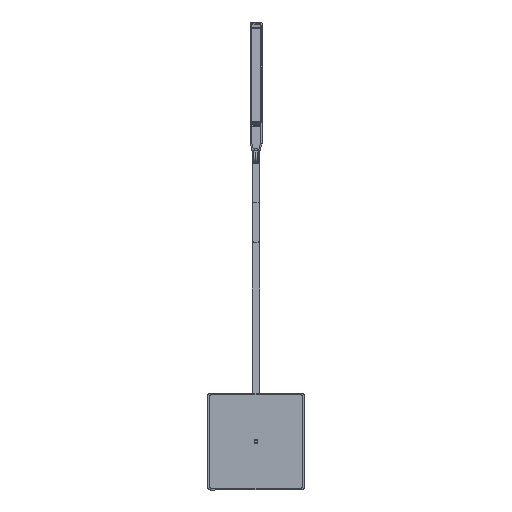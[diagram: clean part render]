
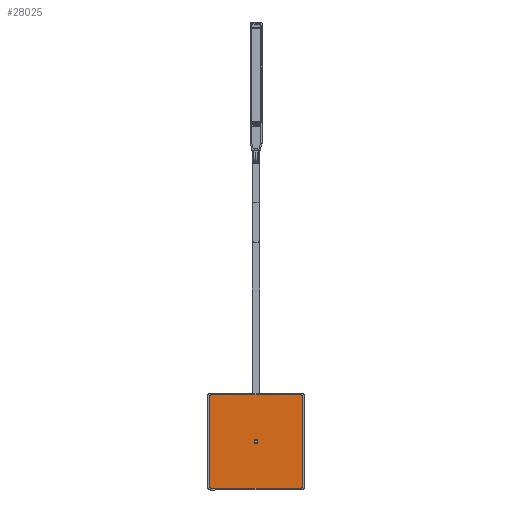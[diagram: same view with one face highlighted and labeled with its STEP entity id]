
A CAD part, front view. The second image highlights one B-rep face of the part: STEP entity #28025.
In plain terms, the highlighted planar face has unit normal (0, -1, 0).
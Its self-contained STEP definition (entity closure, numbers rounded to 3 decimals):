
#607 = DIRECTION ( 'NONE',  ( 0., 0., 1. ) ) ;
#1373 = CARTESIAN_POINT ( 'NONE',  ( 0., 0., 0. ) ) ;
#2465 = CARTESIAN_POINT ( 'NONE',  ( 0., 0., -2.5 ) ) ;
#4659 = EDGE_CURVE ( 'NONE', #7457, #37691, #80485, .T. ) ;
#7457 = VERTEX_POINT ( 'NONE', #24478 ) ;
#8088 = AXIS2_PLACEMENT_3D ( 'NONE', #27718, #56889, #56581 ) ;
#8959 = AXIS2_PLACEMENT_3D ( 'NONE', #73977, #54387, #84434 ) ;
#13626 = DIRECTION ( 'NONE',  ( 0., 0., -1. ) ) ;
#14176 = CARTESIAN_POINT ( 'NONE',  ( 72.5, 0., -68.5 ) ) ;
#16107 = EDGE_CURVE ( 'NONE', #22834, #42604, #86842, .T. ) ;
#16172 = CARTESIAN_POINT ( 'NONE',  ( 68.5, 0., 68.5 ) ) ;
#16890 = LINE ( 'NONE', #17918, #92443 ) ;
#17918 = CARTESIAN_POINT ( 'NONE',  ( 0., 0., -72.5 ) ) ;
#18992 = EDGE_CURVE ( 'NONE', #37691, #75326, #16890, .T. ) ;
#22537 = DIRECTION ( 'NONE',  ( 0., 0., -1. ) ) ;
#22834 = VERTEX_POINT ( 'NONE', #46026 ) ;
#23716 = CIRCLE ( 'NONE', #82555, 4. ) ;
#23804 = DIRECTION ( 'NONE',  ( 0., -1., 0. ) ) ;
#24427 = DIRECTION ( 'NONE',  ( 0., 1., 0. ) ) ;
#24478 = CARTESIAN_POINT ( 'NONE',  ( -72.5, 0., -68.5 ) ) ;
#25236 = DIRECTION ( 'NONE',  ( 1., 0., 0. ) ) ;
#27282 = LINE ( 'NONE', #69243, #44486 ) ;
#27718 = CARTESIAN_POINT ( 'NONE',  ( 68.5, 0., -68.5 ) ) ;
#28025 = ADVANCED_FACE ( 'NONE', ( #35381, #37688 ), #49118, .T. ) ;
#28269 = ORIENTED_EDGE ( 'NONE', *, *, #94301, .T. ) ;
#29794 = CIRCLE ( 'NONE', #8088, 4. ) ;
#29823 = VERTEX_POINT ( 'NONE', #2465 ) ;
#30739 = ORIENTED_EDGE ( 'NONE', *, *, #80542, .T. ) ;
#33884 = EDGE_LOOP ( 'NONE', ( #83653, #65877, #81834, #48893, #28269, #61998, #30739, #86747 ) ) ;
#33890 = VERTEX_POINT ( 'NONE', #71691 ) ;
#33989 = DIRECTION ( 'NONE',  ( -1., 0., 0. ) ) ;
#34443 = CARTESIAN_POINT ( 'NONE',  ( -68.5, 0., 72.5 ) ) ;
#35381 = FACE_OUTER_BOUND ( 'NONE', #33884, .T. ) ;
#37688 = FACE_BOUND ( 'NONE', #84948, .T. ) ;
#37691 = VERTEX_POINT ( 'NONE', #90854 ) ;
#41286 = CARTESIAN_POINT ( 'NONE',  ( 68.5, 0., -72.5 ) ) ;
#42604 = VERTEX_POINT ( 'NONE', #70523 ) ;
#43557 = CARTESIAN_POINT ( 'NONE',  ( -72.5, 0., 68.5 ) ) ;
#44486 = VECTOR ( 'NONE', #33989, 1000. ) ;
#46026 = CARTESIAN_POINT ( 'NONE',  ( 72.5, 0., 68.5 ) ) ;
#46407 = ORIENTED_EDGE ( 'NONE', *, *, #89472, .T. ) ;
#46625 = LINE ( 'NONE', #69318, #90146 ) ;
#48893 = ORIENTED_EDGE ( 'NONE', *, *, #60874, .T. ) ;
#49118 = PLANE ( 'NONE',  #73776 ) ;
#51200 = DIRECTION ( 'NONE',  ( 0., 1., 0. ) ) ;
#54387 = DIRECTION ( 'NONE',  ( 0., -1., 0. ) ) ;
#55667 = ORIENTED_EDGE ( 'NONE', *, *, #76213, .T. ) ;
#56581 = DIRECTION ( 'NONE',  ( 0., 0., -1. ) ) ;
#56889 = DIRECTION ( 'NONE',  ( 0., -1., 0. ) ) ;
#57686 = CARTESIAN_POINT ( 'NONE',  ( -68.5, 0., 68.5 ) ) ;
#57726 = DIRECTION ( 'NONE',  ( 0., -1., 0. ) ) ;
#60326 = DIRECTION ( 'NONE',  ( 0., 0., 1. ) ) ;
#60874 = EDGE_CURVE ( 'NONE', #75326, #77528, #29794, .T. ) ;
#61998 = ORIENTED_EDGE ( 'NONE', *, *, #16107, .T. ) ;
#63774 = AXIS2_PLACEMENT_3D ( 'NONE', #1373, #24427, #60326 ) ;
#64217 = AXIS2_PLACEMENT_3D ( 'NONE', #87365, #51200, #72405 ) ;
#65095 = DIRECTION ( 'NONE',  ( 0., 0., -1. ) ) ;
#65877 = ORIENTED_EDGE ( 'NONE', *, *, #4659, .T. ) ;
#67254 = VERTEX_POINT ( 'NONE', #34443 ) ;
#68213 = VECTOR ( 'NONE', #607, 1000. ) ;
#68366 = DIRECTION ( 'NONE',  ( 0., 0., -1. ) ) ;
#69243 = CARTESIAN_POINT ( 'NONE',  ( 0., 0., 72.5 ) ) ;
#69318 = CARTESIAN_POINT ( 'NONE',  ( -72.5, 0., 0. ) ) ;
#70523 = CARTESIAN_POINT ( 'NONE',  ( 68.5, 0., 72.5 ) ) ;
#71691 = CARTESIAN_POINT ( 'NONE',  ( 0., 0., 2.5 ) ) ;
#72405 = DIRECTION ( 'NONE',  ( 0., 0., 1. ) ) ;
#72823 = CARTESIAN_POINT ( 'NONE',  ( 0., 0., 0. ) ) ;
#73776 = AXIS2_PLACEMENT_3D ( 'NONE', #72823, #57726, #13626 ) ;
#73977 = CARTESIAN_POINT ( 'NONE',  ( -68.5, 0., -68.5 ) ) ;
#75326 = VERTEX_POINT ( 'NONE', #41286 ) ;
#76213 = EDGE_CURVE ( 'NONE', #33890, #29823, #93968, .T. ) ;
#77528 = VERTEX_POINT ( 'NONE', #14176 ) ;
#80485 = CIRCLE ( 'NONE', #8959, 4. ) ;
#80542 = EDGE_CURVE ( 'NONE', #42604, #67254, #27282, .T. ) ;
#81024 = CIRCLE ( 'NONE', #64217, 2.5 ) ;
#81834 = ORIENTED_EDGE ( 'NONE', *, *, #18992, .T. ) ;
#82555 = AXIS2_PLACEMENT_3D ( 'NONE', #57686, #87127, #65095 ) ;
#83653 = ORIENTED_EDGE ( 'NONE', *, *, #87136, .T. ) ;
#84434 = DIRECTION ( 'NONE',  ( 0., 0., -1. ) ) ;
#84948 = EDGE_LOOP ( 'NONE', ( #55667, #46407 ) ) ;
#85395 = AXIS2_PLACEMENT_3D ( 'NONE', #16172, #23804, #22537 ) ;
#86574 = VERTEX_POINT ( 'NONE', #43557 ) ;
#86747 = ORIENTED_EDGE ( 'NONE', *, *, #88887, .T. ) ;
#86842 = CIRCLE ( 'NONE', #85395, 4. ) ;
#87127 = DIRECTION ( 'NONE',  ( 0., -1., 0. ) ) ;
#87136 = EDGE_CURVE ( 'NONE', #86574, #7457, #46625, .T. ) ;
#87365 = CARTESIAN_POINT ( 'NONE',  ( 0., 0., 0. ) ) ;
#88887 = EDGE_CURVE ( 'NONE', #67254, #86574, #23716, .T. ) ;
#89472 = EDGE_CURVE ( 'NONE', #29823, #33890, #81024, .T. ) ;
#89939 = LINE ( 'NONE', #90656, #68213 ) ;
#90146 = VECTOR ( 'NONE', #68366, 1000. ) ;
#90656 = CARTESIAN_POINT ( 'NONE',  ( 72.5, 0., 0. ) ) ;
#90854 = CARTESIAN_POINT ( 'NONE',  ( -68.5, 0., -72.5 ) ) ;
#92443 = VECTOR ( 'NONE', #25236, 1000. ) ;
#93968 = CIRCLE ( 'NONE', #63774, 2.5 ) ;
#94301 = EDGE_CURVE ( 'NONE', #77528, #22834, #89939, .T. ) ;
